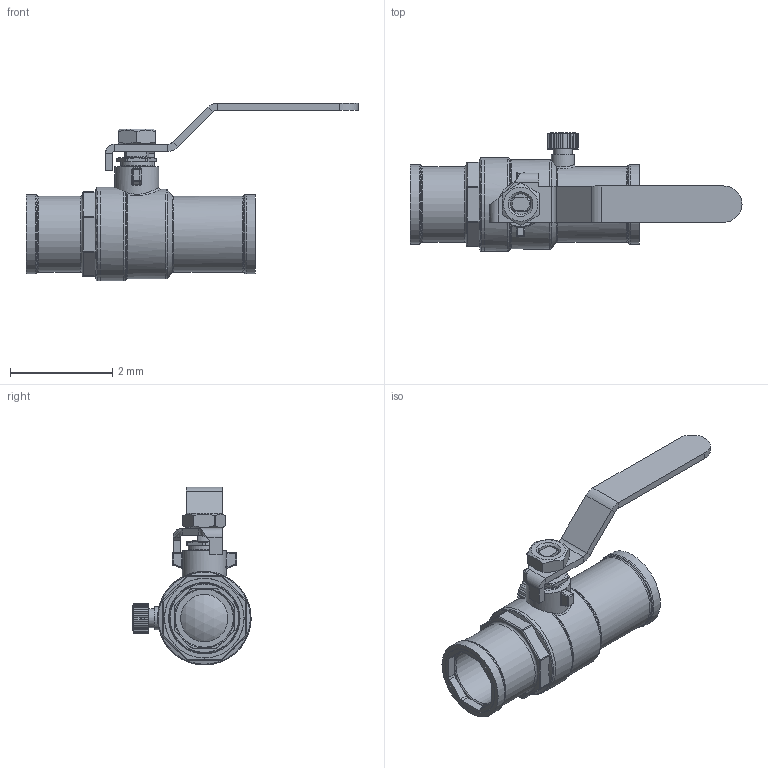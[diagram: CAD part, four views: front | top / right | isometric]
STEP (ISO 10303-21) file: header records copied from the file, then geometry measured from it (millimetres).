
FILE_DESCRIPTION(('Open CASCADE Model'),'2;1');
FILE_NAME('Open CASCADE Shape Model','2022-08-11T10:11:00',('Author'),( 'Open CASCADE'),'Open CASCADE STEP processor 7.3','Open CASCADE 7.3' ,'Unknown');
FILE_SCHEMA(('AUTOMOTIVE_DESIGN { 1 0 10303 214 1 1 1 1 }'));
Length unit declared in the file: millimetre
Products named in the file (23): Open CASCADE STEP translator 7.3 1; Open CASCADE STEP translator 7.3 1.1; Open CASCADE STEP translator 7.3 1.2; Open CASCADE STEP translator 7.3 1.3; Open CASCADE STEP translator 7.3 1.3.1; Open CASCADE STEP translator 7.3 1.3.2; Open CASCADE STEP translator 7.3 1.4; Open CASCADE STEP translator 7.3 1.5; Open CASCADE STEP translator 7.3 1.6; Open CASCADE STEP translator 7.3 1.7; Open CASCADE STEP translator 7.3 1.8; Open CASCADE STEP translator 7.3 1.9; Open CASCADE STEP translator 7.3 1.10; Open CASCADE STEP translator 7.3 1.11; Open CASCADE STEP translator 7.3 1.12; Open CASCADE STEP translator 7.3 1.13; Open CASCADE STEP translator 7.3 1.14; Open CASCADE STEP translator 7.3 1.15; Open CASCADE STEP translator 7.3 1.16; Open CASCADE STEP translator 7.3 1.17; Open CASCADE STEP translator 7.3 1.18; Open CASCADE STEP translator 7.3 1.19; Open CASCADE STEP translator 7.3 1.20
Assembly tree (22 placements, depth 3):
  Open CASCADE STEP translator 7.3 1
    Open CASCADE STEP translator 7.3 1.1
    Open CASCADE STEP translator 7.3 1.2
    Open CASCADE STEP translator 7.3 1.3
      Open CASCADE STEP translator 7.3 1.3.1
      Open CASCADE STEP translator 7.3 1.3.2
    Open CASCADE STEP translator 7.3 1.4
    Open CASCADE STEP translator 7.3 1.5
    Open CASCADE STEP translator 7.3 1.6
    Open CASCADE STEP translator 7.3 1.7
    Open CASCADE STEP translator 7.3 1.8
    Open CASCADE STEP translator 7.3 1.9
    Open CASCADE STEP translator 7.3 1.10
    Open CASCADE STEP translator 7.3 1.11
    Open CASCADE STEP translator 7.3 1.12
    Open CASCADE STEP translator 7.3 1.13
    Open CASCADE STEP translator 7.3 1.14
    Open CASCADE STEP translator 7.3 1.15
    Open CASCADE STEP translator 7.3 1.16
    Open CASCADE STEP translator 7.3 1.17
    Open CASCADE STEP translator 7.3 1.18
    Open CASCADE STEP translator 7.3 1.19
    Open CASCADE STEP translator 7.3 1.20
Bounding box: 6.5 x 2.31 x 3.48 mm (x, y, z)
Volume: 6.3 mm3; surface area: 111.6 mm2
Topology: 21 solids, 21 shells, 438 faces, 1141 edges, 763 vertices
Faces by surface type: cylinder 185, plane 151, cone 47, torus 29, bspline 14, sphere 12
Full cylindrical faces by diameter (mm): 0.004 x1, 0.079 x1, 0.126 x1, 0.284 x2, 0.347 x1, 0.37 x1, 0.375 x1, 0.404 x1, 0.451 x1, 0.453 x1, 0.473 x3, 0.477 x2, 0.518 x1, 0.552 x1, 0.571 x1, 0.63 x1, 0.646 x1, 0.65 x1, 0.709 x1, 0.867 x1, 0.926 x2, 0.985 x3, 1.005 x2, 1.136 x2, 1.17 x2, 1.174 x1, 1.3 x2, 1.328 x2, 1.34 x3, 1.359 x1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
Entity records: 38647 total; most frequent: CARTESIAN_POINT 16217, DIRECTION 4083, ORIENTED_EDGE 2282, PCURVE 2282, DEFINITIONAL_REPRESENTATION 2282, LINE 1916, VECTOR 1916, EDGE_CURVE 1141
